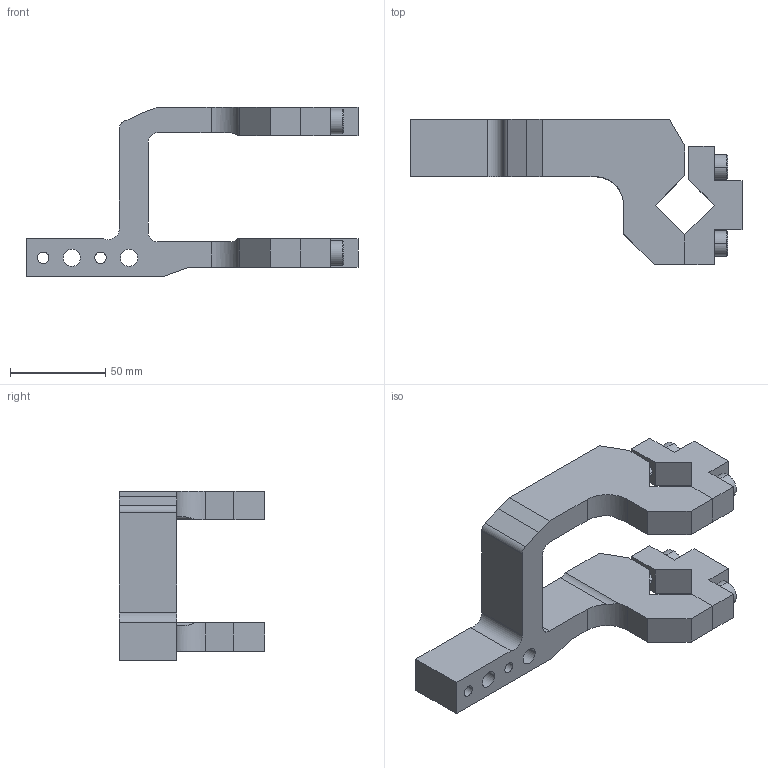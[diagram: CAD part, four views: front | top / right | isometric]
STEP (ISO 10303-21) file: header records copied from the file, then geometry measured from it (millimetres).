
FILE_DESCRIPTION((''),'2;1');
FILE_NAME('S:\Matthew\Step Files\XM Clamp Arms\XJ63-CAR-01.stp','2006-06-28T08:17:45',('Matthew'),(''),'Autodesk Inventor 8','Autodesk Inventor 8','');
FILE_SCHEMA(('AUTOMOTIVE_DESIGN { 1 0 10303 214 1 1 1 1 }'));
Length unit declared in the file: millimetre
Products named in the file (4): XJ63-CAR-01; XJ63-CAR-011; XJ63-CAR-012; XJ63-CAR-013
Assembly tree (3 placements, depth 2):
  XJ63-CAR-01
    XJ63-CAR-011
    XJ63-CAR-012
    XJ63-CAR-013
Bounding box: 174 x 76 x 89 mm (x, y, z)
Volume: 193283.5 mm3; surface area: 51697.9 mm2
Topology: 3 solids, 3 shells, 150 faces, 380 edges, 244 vertices
Faces by surface type: plane 94, bspline 32, cylinder 16, cone 8
Entity records: 4973 total; most frequent: CARTESIAN_POINT 1331, ORIENTED_EDGE 744, DIRECTION 708, EDGE_CURVE 372, VECTOR 282, LINE 282, VERTEX_POINT 244, AXIS2_PLACEMENT_3D 213
